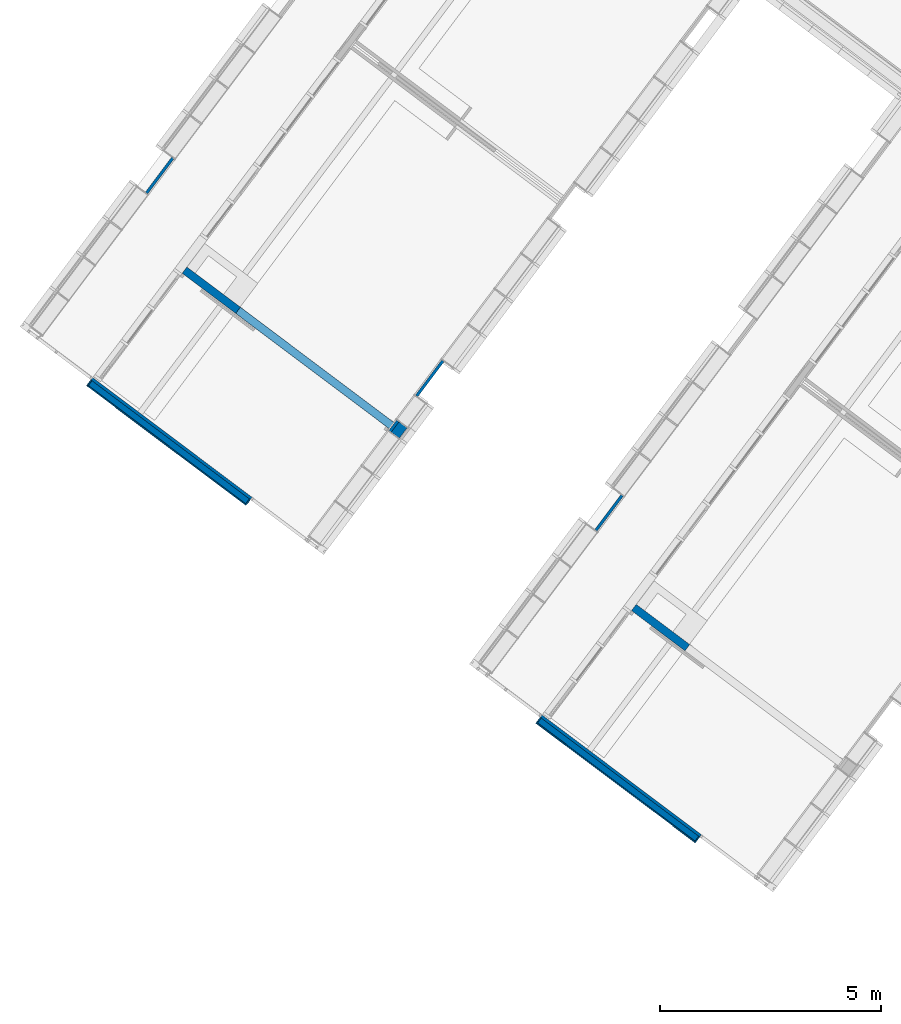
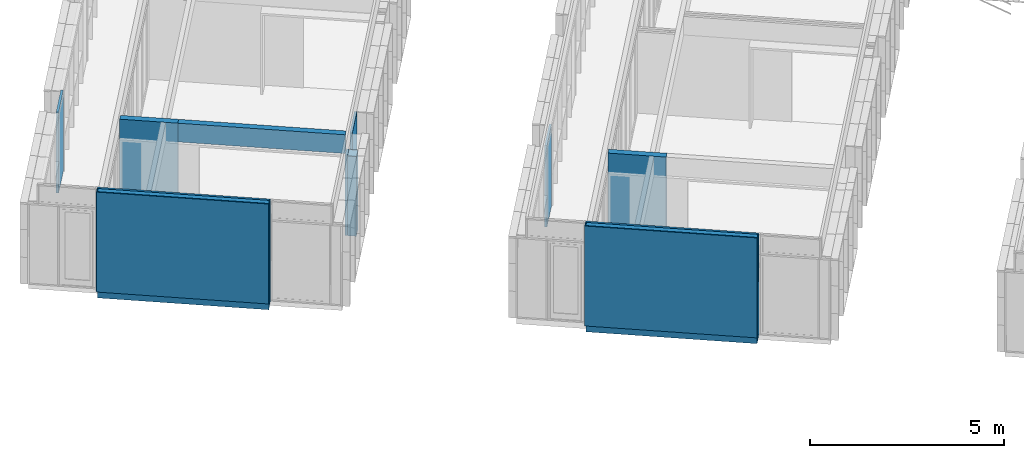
# One storey, part 125 of 243: 18 walls.
"""IFC2X3 building model written with IfcOpenShell, lengths in metres."""

from ifc_helpers import new_model, entity, si_unit, converted_unit, derived_unit, direction, frame, frame_2d, origin, place, context, subcontext, project, spatial, rectangle, extrude, material, layer, layer_set, layer_usage, type_object, element, save


model = new_model("IFC2X3")

# Units and contexts
model_context = context("Model", 3, precision=1e-05, world=origin(), true_north=direction((6.123031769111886e-17, 1.0)))
body_context = subcontext(model_context, "Body", "Model", "MODEL_VIEW")
ifc_project = project(units=[si_unit("LENGTHUNIT", "METRE"), si_unit("AREAUNIT", "SQUARE_METRE"), si_unit("VOLUMEUNIT", "CUBIC_METRE"), converted_unit("PLANEANGLEUNIT", "DEGREE", entity("IfcRatioMeasure", 0.017453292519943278), si_unit("PLANEANGLEUNIT", "RADIAN"), dimensions=[0, 0, 0, 0, 0, 0, 0]), si_unit("MASSUNIT", "GRAM", prefix="KILO"), derived_unit("MASSDENSITYUNIT", [(si_unit("MASSUNIT", "GRAM", prefix="KILO"), 1), (si_unit("LENGTHUNIT", "METRE"), -3)]), derived_unit("IONCONCENTRATIONUNIT", [(si_unit("MASSUNIT", "GRAM", prefix="KILO"), 1), (si_unit("LENGTHUNIT", "METRE"), -3)]), derived_unit("MOMENTOFINERTIAUNIT", [(si_unit("LENGTHUNIT", "METRE"), 4)]), si_unit("TIMEUNIT", "SECOND"), si_unit("FREQUENCYUNIT", "HERTZ"), si_unit("THERMODYNAMICTEMPERATUREUNIT", "DEGREE_CELSIUS"), derived_unit("THERMALTRANSMITTANCEUNIT", [(si_unit("MASSUNIT", "GRAM", prefix="KILO"), 1), (si_unit("THERMODYNAMICTEMPERATUREUNIT", "KELVIN"), -1), (si_unit("TIMEUNIT", "SECOND"), -3)]), derived_unit("THERMALCONDUCTANCEUNIT", [(si_unit("MASSUNIT", "GRAM", prefix="KILO"), 1), (si_unit("THERMODYNAMICTEMPERATUREUNIT", "KELVIN"), -1), (si_unit("TIMEUNIT", "SECOND"), -3), (si_unit("LENGTHUNIT", "METRE"), 1)]), derived_unit("VOLUMETRICFLOWRATEUNIT", [(si_unit("LENGTHUNIT", "METRE"), 3), (si_unit("TIMEUNIT", "SECOND"), -1)]), derived_unit("MASSFLOWRATEUNIT", [(si_unit("MASSUNIT", "GRAM", prefix="KILO"), 1), (si_unit("TIMEUNIT", "SECOND"), -1)]), derived_unit("ROTATIONALFREQUENCYUNIT", [(si_unit("TIMEUNIT", "SECOND"), -1)]), si_unit("ELECTRICCURRENTUNIT", "AMPERE"), si_unit("ELECTRICVOLTAGEUNIT", "VOLT"), si_unit("POWERUNIT", "WATT"), si_unit("FORCEUNIT", "NEWTON", prefix="KILO"), si_unit("ILLUMINANCEUNIT", "LUX"), si_unit("LUMINOUSFLUXUNIT", "LUMEN"), si_unit("LUMINOUSINTENSITYUNIT", "CANDELA"), derived_unit("USERDEFINED", [(si_unit("MASSUNIT", "GRAM", prefix="KILO"), -1), (si_unit("LENGTHUNIT", "METRE"), -2), (si_unit("TIMEUNIT", "SECOND"), 3), (si_unit("LUMINOUSFLUXUNIT", "LUMEN"), 1)]), derived_unit("USERDEFINED", [(si_unit("MASSUNIT", "GRAM", prefix="KILO"), 1), (si_unit("TIMEUNIT", "SECOND"), -3), (si_unit("LENGTHUNIT", "METRE"), 3), (si_unit("ELECTRICCURRENTUNIT", "AMPERE"), -2)]), derived_unit("SOUNDPOWERUNIT", [(si_unit("MASSUNIT", "GRAM", prefix="KILO"), 1), (si_unit("TIMEUNIT", "SECOND"), -3), (si_unit("LENGTHUNIT", "METRE"), 2)]), derived_unit("SOUNDPRESSUREUNIT", [(si_unit("MASSUNIT", "GRAM", prefix="KILO"), 1), (si_unit("LENGTHUNIT", "METRE"), -1), (si_unit("TIMEUNIT", "SECOND"), -2)]), derived_unit("LINEARVELOCITYUNIT", [(si_unit("LENGTHUNIT", "METRE"), 1), (si_unit("TIMEUNIT", "SECOND"), -1)]), si_unit("PRESSUREUNIT", "PASCAL"), derived_unit("USERDEFINED", [(si_unit("MASSUNIT", "GRAM", prefix="KILO"), 1), (si_unit("LENGTHUNIT", "METRE"), -2), (si_unit("TIMEUNIT", "SECOND"), -2)]), derived_unit("LINEARFORCEUNIT", [(si_unit("MASSUNIT", "GRAM", prefix="KILO"), 1), (si_unit("TIMEUNIT", "SECOND"), -2)]), derived_unit("PLANARFORCEUNIT", [(si_unit("MASSUNIT", "GRAM", prefix="KILO"), 1), (si_unit("LENGTHUNIT", "METRE"), -1), (si_unit("TIMEUNIT", "SECOND"), -2)]), derived_unit("SPECIFICHEATCAPACITYUNIT", [(si_unit("THERMODYNAMICTEMPERATUREUNIT", "KELVIN"), -1), (si_unit("LENGTHUNIT", "METRE"), 2), (si_unit("TIMEUNIT", "SECOND"), -2)]), derived_unit("HEATINGVALUEUNIT", [(si_unit("LENGTHUNIT", "METRE"), 2), (si_unit("TIMEUNIT", "SECOND"), -2)]), derived_unit("VAPORPERMEABILITYUNIT", [(si_unit("LENGTHUNIT", "METRE"), -1), (si_unit("TIMEUNIT", "SECOND"), 1)]), derived_unit("DYNAMICVISCOSITYUNIT", [(si_unit("MASSUNIT", "GRAM", prefix="KILO"), 1), (si_unit("TIMEUNIT", "SECOND"), -1), (si_unit("LENGTHUNIT", "METRE"), -1)]), derived_unit("THERMALEXPANSIONCOEFFICIENTUNIT", [(si_unit("THERMODYNAMICTEMPERATUREUNIT", "KELVIN"), -1)]), derived_unit("MODULUSOFELASTICITYUNIT", [(si_unit("MASSUNIT", "GRAM", prefix="KILO"), 1), (si_unit("LENGTHUNIT", "METRE"), -1), (si_unit("TIMEUNIT", "SECOND"), -2)]), derived_unit("ISOTHERMALMOISTURECAPACITYUNIT", [(si_unit("LENGTHUNIT", "METRE"), 3), (si_unit("MASSUNIT", "GRAM", prefix="KILO"), -1)]), derived_unit("MOISTUREDIFFUSIVITYUNIT", [(si_unit("TIMEUNIT", "SECOND"), -1), (si_unit("LENGTHUNIT", "METRE"), 2)])], contexts=[model_context])

# Site, building, storey
site_placement = place(None, frame((0.0, 0.0, 235.0), z_axis=(0.0, 0.0, 1.0), x_axis=(-0.7996477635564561, 0.6004693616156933, 0.0)))
site = spatial("IfcSite", under=ifc_project, at=site_placement, Name="Default", CompositionType="ELEMENT")
building_placement = place(site_placement, origin())
building = spatial("IfcBuilding", under=site, at=building_placement, CompositionType="ELEMENT")
storey_placement = place(building_placement, origin())
storey = spatial("IfcBuildingStorey", under=building, at=storey_placement, Name="P0- Escola", CompositionType="ELEMENT", Elevation=0.0)

# Walls
ifc_material_1 = material(Name="_Ceràmica- ENV")
ifc_layer_1 = layer(ifc_material_1, 0.14)
ifc_layer_set_1 = layer_set([ifc_layer_1], Name="Muro básico:ENV- Ceràmic- 14 cm")
ifc_layer_usage_1 = layer_usage(ifc_layer_set_1, "AXIS2", "NEGATIVE", 0.07)
wall_type_1 = type_object("IfcWallType", Name="Muro básico:ENV- Ceràmic- 14 cm", PredefinedType="STANDARD", material=ifc_layer_set_1)
for number, where, name in (
    (1, (55.70014360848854, -20.218941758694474, -0.2), "Muro básico:ENV- Ceràmic- 14 cm"),
    (2, (68.40014360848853, -20.218941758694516, -0.2), "Muro básico:ENV- Ceràmic- 14 cm"),
):
    element("IfcWallStandardCase", number, at=place(storey_placement, frame(where)), inside=storey, type_object=wall_type_1, material=ifc_layer_usage_1, Name=name, ObjectType="Muro básico:ENV- Ceràmic- 14 cm", context=body_context, shape_type="SweptSolid", body=[
        extrude(rectangle(XDim=4.4550040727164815, YDim=0.14000000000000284, at=frame_2d((2.2275020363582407, -1.1449174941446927e-15), x_axis=(-1.0, 0.0))), origin(), (0.0, 0.0, 1.0), 3.350000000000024),
    ])
ifc_material_2 = material(Name="_Guix laminat- ENV")
ifc_layer_2 = layer(ifc_material_2, 0.02)
ifc_material_3 = material(Name="_Aillament")
ifc_layer_3 = layer(ifc_material_3, 0.045)
ifc_layer_set_2 = layer_set([ifc_layer_2, ifc_layer_3], Name="Muro básico:REV- Guix Laminat Extradossat- Aillament- T1- 6,5 cm")
ifc_layer_usage_2 = layer_usage(ifc_layer_set_2, "AXIS2", "POSITIVE", -0.032499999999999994)
wall_type_2 = type_object("IfcWallType", Name="Muro básico:REV- Guix Laminat Extradossat- Aillament- T1- 6,5 cm", PredefinedType="STANDARD", material=ifc_layer_set_2)
wall_1_placement = place(storey_placement, frame((61.71264768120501, -24.42019175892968, 0.0), z_axis=(0.0, 0.0, 1.0), x_axis=(0.0, -1.0, 0.0)))
element("IfcWallStandardCase", 3, at=wall_1_placement, inside=storey, type_object=wall_type_2, material=ifc_layer_usage_2, Name="Muro básico:REV- Guix Laminat Extradossat- Aillament- T1- 6,5 cm", ObjectType="Muro básico:REV- Guix Laminat Extradossat- Aillament- T1- 6,5 cm", context=body_context, shape_type="SweptSolid", body=[
    extrude(rectangle(XDim=0.9900000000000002, YDim=0.06500000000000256, at=frame_2d((0.4950000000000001, -1.4467593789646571e-15), x_axis=(-1.0, 0.0))), origin(), (0.0, 0.0, 1.0), 2.565),
])
wall_2_placement = place(storey_placement, frame((55.67514360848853, -20.321441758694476, 0.0)))
element("IfcWallStandardCase", 4, at=wall_2_placement, inside=storey, type_object=wall_type_2, material=ifc_layer_usage_2, Name="Muro básico:REV- Guix Laminat Extradossat- Aillament- T1- 6,5 cm", ObjectType="Muro básico:REV- Guix Laminat Extradossat- Aillament- T1- 6,5 cm", context=body_context, shape_type="SweptSolid", body=[
    extrude(rectangle(XDim=4.5050040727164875, YDim=0.06500000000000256, at=frame_2d((2.2525020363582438, 4.163336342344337e-17), x_axis=(-1.0, 0.0))), origin(), (0.0, 0.0, 1.0), 3.150000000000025),
])
ifc_layer_usage_3 = layer_usage(ifc_layer_set_2, "AXIS2", "NEGATIVE", 0.032499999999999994)
wall_3_placement = place(storey_placement, frame((66.7776476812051, -24.420191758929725, 0.0), z_axis=(0.0, 0.0, 1.0), x_axis=(0.0, -1.0, 0.0)))
element("IfcWallStandardCase", 5, at=wall_3_placement, inside=storey, type_object=wall_type_2, material=ifc_layer_usage_3, Name="Muro básico:REV- Guix Laminat Extradossat- Aillament- T1- 6,5 cm", ObjectType="Muro básico:REV- Guix Laminat Extradossat- Aillament- T1- 6,5 cm", context=body_context, shape_type="SweptSolid", body=[
    extrude(rectangle(XDim=0.9900000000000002, YDim=0.06500000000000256, at=frame_2d((0.4950000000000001, -1.4467593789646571e-15), x_axis=(-1.0, 0.0))), origin(), (0.0, 0.0, 1.0), 2.535000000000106),
])
wall_4_placement = place(storey_placement, frame((74.41264768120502, -24.42019175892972, 0.0), z_axis=(0.0, 0.0, 1.0), x_axis=(0.0, -1.0, 0.0)))
element("IfcWallStandardCase", 6, at=wall_4_placement, inside=storey, type_object=wall_type_2, material=ifc_layer_usage_2, Name="Muro básico:REV- Guix Laminat Extradossat- Aillament- T1- 6,5 cm", ObjectType="Muro básico:REV- Guix Laminat Extradossat- Aillament- T1- 6,5 cm", context=body_context, shape_type="SweptSolid", body=[
    extrude(rectangle(XDim=0.9900000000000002, YDim=0.06500000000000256, at=frame_2d((0.4950000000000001, -1.4467593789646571e-15), x_axis=(-1.0, 0.0))), origin(), (0.0, 0.0, 1.0), 2.565),
])
wall_5_placement = place(storey_placement, frame((66.77764768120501, -23.42019175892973, 0.0), z_axis=(0.0, 0.0, 1.0), x_axis=(0.0, -1.0, 0.0)))
element("IfcWallStandardCase", 7, at=wall_5_placement, inside=storey, type_object=wall_type_2, material=ifc_layer_usage_3, Name="Muro básico:REV- Guix Laminat Extradossat- Aillament- T1- 6,5 cm", ObjectType="Muro básico:REV- Guix Laminat Extradossat- Aillament- T1- 6,5 cm", context=body_context, shape_type="SweptSolid", body=[
    extrude(rectangle(XDim=0.29000000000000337, YDim=0.06500000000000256, at=frame_2d((0.14500000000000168, -4.2327252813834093e-16), x_axis=(-1.0, 0.0))), origin(), (0.0, 0.0, 1.0), 2.535000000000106),
])
wall_6_placement = place(storey_placement, frame((68.37514360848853, -20.32144175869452, 0.0)))
element("IfcWallStandardCase", 8, at=wall_6_placement, inside=storey, type_object=wall_type_2, material=ifc_layer_usage_2, Name="Muro básico:REV- Guix Laminat Extradossat- Aillament- T1- 6,5 cm", ObjectType="Muro básico:REV- Guix Laminat Extradossat- Aillament- T1- 6,5 cm", context=body_context, shape_type="SweptSolid", body=[
    extrude(rectangle(XDim=4.5050040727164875, YDim=0.06500000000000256, at=frame_2d((2.2525020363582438, 4.163336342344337e-17), x_axis=(-1.0, 0.0))), origin(), (0.0, 0.0, 1.0), 3.150000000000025),
])
ifc_layer_4 = layer(ifc_material_1, 0.23)
ifc_layer_set_3 = layer_set([ifc_layer_4], Name="Muro básico:ENV- Ceràmic Replè- 23 cm")
ifc_layer_usage_4 = layer_usage(ifc_layer_set_3, "AXIS2", "POSITIVE", -0.115)
wall_type_3 = type_object("IfcWallType", Name="Muro básico:ENV- Ceràmic Replè- 23 cm", PredefinedType="STANDARD", material=ifc_layer_set_3)
wall_7_placement = place(storey_placement, frame((66.6301476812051, -23.42019175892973, 0.0), z_axis=(0.0, 0.0, 1.0), x_axis=(0.0, -1.0, 0.0)))
element("IfcWallStandardCase", 9, at=wall_7_placement, inside=storey, type_object=wall_type_3, material=ifc_layer_usage_4, Name="Muro básico:ENV- Ceràmic Replè- 23 cm", ObjectType="Muro básico:ENV- Ceràmic Replè- 23 cm", context=body_context, shape_type="SweptSolid", body=[
    extrude(rectangle(XDim=0.29000000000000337, YDim=0.2299999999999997, at=frame_2d((0.14500000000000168, 0.0), x_axis=(-1.0, 0.0))), origin(), (0.0, 0.0, 1.0), 2.514054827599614),
])
ifc_material_4 = material(Name="_Enrajolat Gresite- REV- PAV")
ifc_layer_5 = layer(ifc_material_4, 0.01)
ifc_material_5 = material(Name="_Morter Base - REV")
ifc_layer_6 = layer(ifc_material_5, 0.015)
ifc_layer_set_4 = layer_set([ifc_layer_5, ifc_layer_6], Name="Muro básico:REV- Enrajolat peces pasta vitrea- T1- int- 2,5 cm")
ifc_layer_usage_5 = layer_usage(ifc_layer_set_4, "AXIS2", "NEGATIVE", 0.0125)
wall_type_4 = type_object("IfcWallType", Name="Muro básico:REV- Enrajolat peces pasta vitrea- T1- int- 2,5 cm", PredefinedType="STANDARD", material=ifc_layer_set_4)
wall_8_placement = place(storey_placement, frame((55.68764360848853, -20.28894175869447, 0.0), z_axis=(0.0, 0.0, 1.0), x_axis=(0.0, 1.0, 0.0)))
element("IfcWallStandardCase", 10, at=wall_8_placement, inside=storey, type_object=wall_type_4, material=ifc_layer_usage_5, Name="Muro básico:REV- Enrajolat peces pasta vitrea- T1- int- 2,5 cm", ObjectType="Muro básico:REV- Enrajolat peces pasta vitrea- T1- int- 2,5 cm", context=body_context, shape_type="SweptSolid", body=[
    extrude(rectangle(XDim=0.16500000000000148, YDim=0.02499999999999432, at=frame_2d((0.08250000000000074, 0.0), x_axis=(-1.0, 0.0))), origin(), (0.0, 0.0, 1.0), 3.150000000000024),
])
wall_9_placement = place(storey_placement, frame((55.70014360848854, -20.13644175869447, 0.0)))
element("IfcWallStandardCase", 11, at=wall_9_placement, inside=storey, type_object=wall_type_4, material=ifc_layer_usage_5, Name="Muro básico:REV- Enrajolat peces pasta vitrea- T1- int- 2,5 cm", ObjectType="Muro básico:REV- Enrajolat peces pasta vitrea- T1- int- 2,5 cm", context=body_context, shape_type="SweptSolid", body=[
    extrude(rectangle(XDim=4.4800040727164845, YDim=0.025000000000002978, at=frame_2d((2.2400020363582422, 6.591949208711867e-17), x_axis=(-1.0, 0.0))), origin(), (0.0, 0.0, 1.0), 3.150000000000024),
])
wall_10_placement = place(storey_placement, frame((60.167647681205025, -20.14894175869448, 0.0), z_axis=(0.0, 0.0, 1.0), x_axis=(0.0, -1.0, 0.0)))
element("IfcWallStandardCase", 12, at=wall_10_placement, inside=storey, type_object=wall_type_4, material=ifc_layer_usage_5, Name="Muro básico:REV- Enrajolat peces pasta vitrea- T1- int- 2,5 cm", ObjectType="Muro básico:REV- Enrajolat peces pasta vitrea- T1- int- 2,5 cm", context=body_context, shape_type="SweptSolid", body=[
    extrude(rectangle(XDim=0.14000000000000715, YDim=0.02499999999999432, at=frame_2d((0.07000000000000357, 0.0), x_axis=(-1.0, 0.0))), origin(), (0.0, 0.0, 1.0), 3.150000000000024),
])
wall_11_placement = place(storey_placement, frame((68.38764360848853, -20.288941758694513, 0.0), z_axis=(0.0, 0.0, 1.0), x_axis=(0.0, 1.0, 0.0)))
element("IfcWallStandardCase", 13, at=wall_11_placement, inside=storey, type_object=wall_type_4, material=ifc_layer_usage_5, Name="Muro básico:REV- Enrajolat peces pasta vitrea- T1- int- 2,5 cm", ObjectType="Muro básico:REV- Enrajolat peces pasta vitrea- T1- int- 2,5 cm", context=body_context, shape_type="SweptSolid", body=[
    extrude(rectangle(XDim=0.16500000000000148, YDim=0.02499999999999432, at=frame_2d((0.08250000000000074, 0.0), x_axis=(-1.0, 0.0))), origin(), (0.0, 0.0, 1.0), 3.150000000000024),
])
wall_12_placement = place(storey_placement, frame((68.40014360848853, -20.136441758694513, 0.0)))
element("IfcWallStandardCase", 14, at=wall_12_placement, inside=storey, type_object=wall_type_4, material=ifc_layer_usage_5, Name="Muro básico:REV- Enrajolat peces pasta vitrea- T1- int- 2,5 cm", ObjectType="Muro básico:REV- Enrajolat peces pasta vitrea- T1- int- 2,5 cm", context=body_context, shape_type="SweptSolid", body=[
    extrude(rectangle(XDim=4.4800040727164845, YDim=0.025000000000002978, at=frame_2d((2.2400020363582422, 6.591949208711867e-17), x_axis=(-1.0, 0.0))), origin(), (0.0, 0.0, 1.0), 3.150000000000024),
])
wall_13_placement = place(storey_placement, frame((72.86764768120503, -20.148941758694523, 0.0), z_axis=(0.0, 0.0, 1.0), x_axis=(0.0, -1.0, 0.0)))
element("IfcWallStandardCase", 15, at=wall_13_placement, inside=storey, type_object=wall_type_4, material=ifc_layer_usage_5, Name="Muro básico:REV- Enrajolat peces pasta vitrea- T1- int- 2,5 cm", ObjectType="Muro básico:REV- Enrajolat peces pasta vitrea- T1- int- 2,5 cm", context=body_context, shape_type="SweptSolid", body=[
    extrude(rectangle(XDim=0.14000000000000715, YDim=0.02499999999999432, at=frame_2d((0.07000000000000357, 0.0), x_axis=(-1.0, 0.0))), origin(), (0.0, 0.0, 1.0), 3.150000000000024),
])
ifc_layer_7 = layer(ifc_material_2, 0.03)
ifc_material_6 = material(Name="_Genèric perfils, muntants, rastrells")
ifc_layer_8 = layer(ifc_material_6, 0.046)
ifc_layer_9 = layer(ifc_material_2, 0.025)
ifc_layer_10 = layer(ifc_material_6, 0.046)
ifc_layer_11 = layer(ifc_material_2, 0.03)
ifc_layer_set_5 = layer_set([ifc_layer_7, ifc_layer_8, ifc_layer_9, ifc_layer_10, ifc_layer_11], Name="Muro básico:ENV- Guix Laminat- 17 cm")
ifc_layer_usage_6 = layer_usage(ifc_layer_set_5, "AXIS2", "NEGATIVE", 0.0885)
wall_type_5 = type_object("IfcWallType", Name="Muro básico:ENV- Guix Laminat- 17 cm", PredefinedType="STANDARD", material=ifc_layer_set_5)
for number, where, z_axis, x_axis, name in (
    (16, (59.98014768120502, -23.5426899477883, 0.0), (0.0, 0.0, 1.0), (-1.0, 0.0, 0.0), "Muro básico:ENV- Guix Laminat- 17 cm"),
    (17, (72.68014768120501, -23.542689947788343, 0.0), (0.0, 0.0, 1.0), (-1.0, 0.0, 0.0), "Muro básico:ENV- Guix Laminat- 17 cm"),
):
    element("IfcWallStandardCase", number, at=place(storey_placement, frame(where, z_axis=z_axis, x_axis=x_axis)), inside=storey, type_object=wall_type_5, material=ifc_layer_usage_6, Name=name, ObjectType="Muro básico:ENV- Guix Laminat- 17 cm", context=body_context, shape_type="SweptSolid", body=[
        extrude(rectangle(XDim=1.5132553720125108, YDim=0.1770000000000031, at=frame_2d((0.7566276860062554, 1.1449174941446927e-15), x_axis=(-1.0, 0.0))), origin(), (0.0, 0.0, 1.0), 3.150000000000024),
    ])
wall_14_placement = place(storey_placement, frame((71.1668923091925, -23.54268994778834, 2.5600000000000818), z_axis=(0.0, 0.0, 1.0), x_axis=(-1.0, 0.0, 0.0)))
element("IfcWallStandardCase", 18, at=wall_14_placement, inside=storey, type_object=wall_type_5, material=ifc_layer_usage_6, Name="Muro básico:ENV- Guix Laminat- 17 cm", ObjectType="Muro básico:ENV- Guix Laminat- 17 cm", context=body_context, shape_type="SweptSolid", body=[
    extrude(rectangle(XDim=4.3567446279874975, YDim=0.17700000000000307, at=frame_2d((2.1783723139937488, 0.0), x_axis=(-1.0, 0.0))), origin(), (0.0, 0.0, 1.0), 0.5899999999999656),
])

save(model, "model.ifc")
